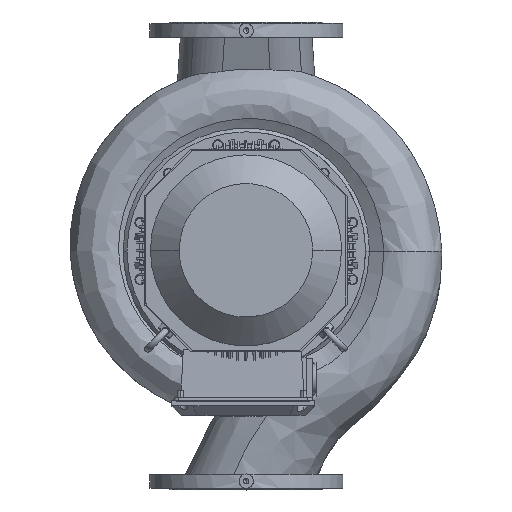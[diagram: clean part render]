
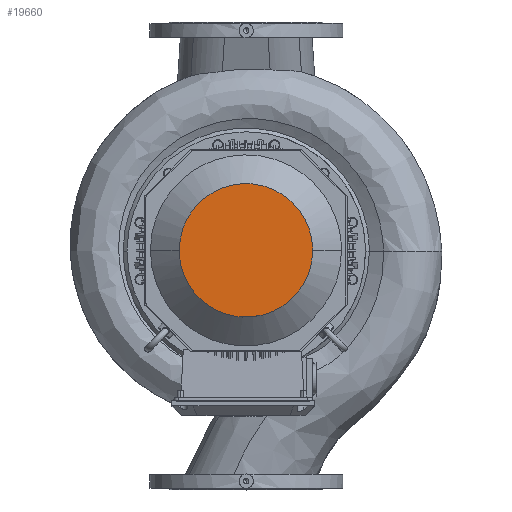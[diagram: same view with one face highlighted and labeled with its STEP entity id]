
A CAD part, top view. The second image highlights one B-rep face of the part: STEP entity #19660.
In plain terms, the highlighted free-form (B-spline) face has degree [1, 1] with [2, 2] control points.
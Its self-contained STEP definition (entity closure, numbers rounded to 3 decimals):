
#19660=ADVANCED_FACE('     F36',(#38700),#38701,.T.);
#19742=EDGE_CURVE('     E99',#38826,#38827,#38828,.T.);
#19746=EDGE_CURVE('     E99',#38827,#38826,#38832,.T.);
#38700=FACE_OUTER_BOUND('',#92227,.T.);
#38701=B_SPLINE_SURFACE_WITH_KNOTS('',1,1,((#92228,#92229),(#92230,#92231)),.UNSPECIFIED.,.F.,.F.,.F.,(2,2),(2,2),(0.044,0.955),(0.038,0.96),.UNSPECIFIED.);
#38826=VERTEX_POINT('',#92672);
#38827=VERTEX_POINT('',#92673);
#38828=(B_SPLINE_CURVE(2,(#92675,#92676,#92677,#92678,#92679),.UNSPECIFIED.,.F.,.F.)B_SPLINE_CURVE_WITH_KNOTS((3,2,3),(68.203,90.937,136.406),.UNSPECIFIED.)RATIONAL_B_SPLINE_CURVE((0.75,0.75,1.0,0.5,1.0))BOUNDED_CURVE()REPRESENTATION_ITEM('')GEOMETRIC_REPRESENTATION_ITEM()CURVE());
#38832=(B_SPLINE_CURVE(2,(#92693,#92694,#92695,#92696,#92697),.UNSPECIFIED.,.F.,.F.)B_SPLINE_CURVE_WITH_KNOTS((3,2,3),(0.0,45.469,68.203),.UNSPECIFIED.)RATIONAL_B_SPLINE_CURVE((1.0,0.5,1.0,0.75,0.75))BOUNDED_CURVE()REPRESENTATION_ITEM('')GEOMETRIC_REPRESENTATION_ITEM()CURVE());
#92227=EDGE_LOOP('',(#116488,#116489));
#92228=CARTESIAN_POINT('',(-344.319,136.863,-187.99));
#92229=CARTESIAN_POINT('',(-344.319,-143.766,-187.99));
#92230=CARTESIAN_POINT('',(-64.263,136.863,-187.99));
#92231=CARTESIAN_POINT('',(-64.263,-143.766,-187.99));
#92672=CARTESIAN_POINT('',(-343.849,-3.635,-187.99));
#92673=CARTESIAN_POINT('',(-64.273,-3.635,-187.99));
#92675=CARTESIAN_POINT('',(-343.849,-3.635,-187.99));
#92676=CARTESIAN_POINT('',(-343.849,-84.342,-187.99));
#92677=CARTESIAN_POINT('',(-273.955,-124.695,-187.99));
#92678=CARTESIAN_POINT('',(-64.273,-245.755,-187.99));
#92679=CARTESIAN_POINT('',(-64.273,-3.635,-187.99));
#92693=CARTESIAN_POINT('',(-64.273,-3.635,-187.99));
#92694=CARTESIAN_POINT('',(-64.273,238.485,-187.99));
#92695=CARTESIAN_POINT('',(-273.955,117.425,-187.99));
#92696=CARTESIAN_POINT('',(-343.849,77.072,-187.99));
#92697=CARTESIAN_POINT('',(-343.849,-3.635,-187.99));
#116488=ORIENTED_EDGE('',*,*,#19746,.F.);
#116489=ORIENTED_EDGE('',*,*,#19742,.F.);
